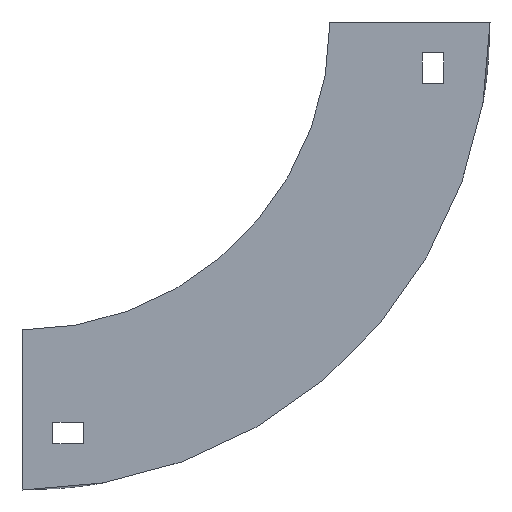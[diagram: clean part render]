
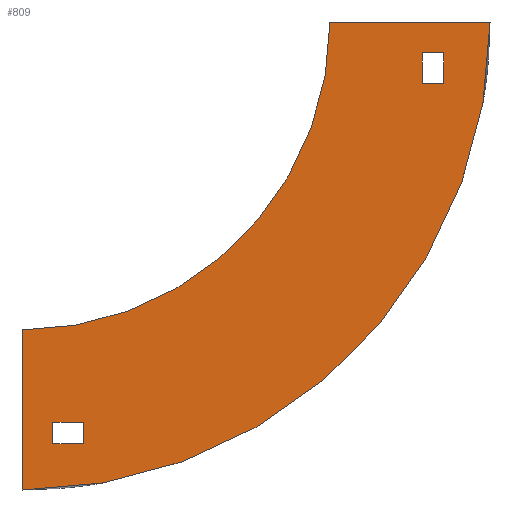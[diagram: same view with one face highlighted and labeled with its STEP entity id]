
A CAD part, left-side view. The second image highlights one B-rep face of the part: STEP entity #809.
In plain terms, the highlighted planar face has unit normal (-1, 0, 0).
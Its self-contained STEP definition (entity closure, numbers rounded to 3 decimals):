
#3 = CARTESIAN_POINT ( 'NONE',  ( -252., -52., 0. ) ) ;
#8 = VERTEX_POINT ( 'NONE', #1004 ) ;
#9 = VECTOR ( 'NONE', #44, 1000. ) ;
#12 = LINE ( 'NONE', #204, #700 ) ;
#22 = EDGE_CURVE ( 'NONE', #8, #177, #205, .T. ) ;
#24 = DIRECTION ( 'NONE',  ( 0., 0., -1. ) ) ;
#44 = DIRECTION ( 'NONE',  ( 0., 0., -1. ) ) ;
#50 = LINE ( 'NONE', #1103, #583 ) ;
#51 = ORIENTED_EDGE ( 'NONE', *, *, #223, .F. ) ;
#56 = DIRECTION ( 'NONE',  ( 0., 1., 0. ) ) ;
#63 = LINE ( 'NONE', #257, #442 ) ;
#64 = AXIS2_PLACEMENT_3D ( 'NONE', #1090, #190, #24 ) ;
#70 = EDGE_CURVE ( 'NONE', #177, #1034, #389, .T. ) ;
#77 = DIRECTION ( 'NONE',  ( -1., 0., 0. ) ) ;
#91 = FACE_BOUND ( 'NONE', #966, .T. ) ;
#92 = CARTESIAN_POINT ( 'NONE',  ( -252., 100., -100. ) ) ;
#101 = DIRECTION ( 'NONE',  ( 0., 0., -1. ) ) ;
#111 = EDGE_CURVE ( 'NONE', #268, #8, #50, .T. ) ;
#112 = LINE ( 'NONE', #466, #773 ) ;
#126 = VECTOR ( 'NONE', #897, 1000. ) ;
#148 = ORIENTED_EDGE ( 'NONE', *, *, #1095, .F. ) ;
#155 = VERTEX_POINT ( 'NONE', #603 ) ;
#169 = CARTESIAN_POINT ( 'NONE',  ( -252., 80., -137. ) ) ;
#177 = VERTEX_POINT ( 'NONE', #759 ) ;
#182 = FACE_BOUND ( 'NONE', #908, .T. ) ;
#190 = DIRECTION ( 'NONE',  ( 1., 0., 0. ) ) ;
#200 = VERTEX_POINT ( 'NONE', #169 ) ;
#204 = CARTESIAN_POINT ( 'NONE',  ( -252., -37., -10. ) ) ;
#205 = LINE ( 'NONE', #1099, #363 ) ;
#223 = EDGE_CURVE ( 'NONE', #991, #971, #703, .T. ) ;
#226 = ORIENTED_EDGE ( 'NONE', *, *, #833, .T. ) ;
#239 = CARTESIAN_POINT ( 'NONE',  ( -252., 90., -137. ) ) ;
#257 = CARTESIAN_POINT ( 'NONE',  ( -252., 80., -130. ) ) ;
#258 = VECTOR ( 'NONE', #858, 1000. ) ;
#260 = CARTESIAN_POINT ( 'NONE',  ( -252., 100., 0. ) ) ;
#261 = VERTEX_POINT ( 'NONE', #272 ) ;
#263 = EDGE_CURVE ( 'NONE', #281, #991, #695, .T. ) ;
#268 = VERTEX_POINT ( 'NONE', #1059 ) ;
#272 = CARTESIAN_POINT ( 'NONE',  ( -252., 80., -130. ) ) ;
#281 = VERTEX_POINT ( 'NONE', #724 ) ;
#303 = CARTESIAN_POINT ( 'NONE',  ( -252., 100., -152. ) ) ;
#336 = ORIENTED_EDGE ( 'NONE', *, *, #22, .T. ) ;
#339 = LINE ( 'NONE', #239, #258 ) ;
#348 = DIRECTION ( 'NONE',  ( 0., 0., 1. ) ) ;
#354 = DIRECTION ( 'NONE',  ( 0., 0., -1. ) ) ;
#363 = VECTOR ( 'NONE', #488, 1000. ) ;
#376 = DIRECTION ( 'NONE',  ( 0., -1., 0. ) ) ;
#389 = LINE ( 'NONE', #394, #440 ) ;
#394 = CARTESIAN_POINT ( 'NONE',  ( -252., -30., -10. ) ) ;
#424 = ORIENTED_EDGE ( 'NONE', *, *, #111, .T. ) ;
#431 = ORIENTED_EDGE ( 'NONE', *, *, #70, .T. ) ;
#440 = VECTOR ( 'NONE', #376, 1000. ) ;
#442 = VECTOR ( 'NONE', #348, 1000. ) ;
#466 = CARTESIAN_POINT ( 'NONE',  ( -252., 90., -130. ) ) ;
#484 = ORIENTED_EDGE ( 'NONE', *, *, #263, .F. ) ;
#488 = DIRECTION ( 'NONE',  ( 0., 0., 1. ) ) ;
#517 = CIRCLE ( 'NONE', #662, 100. ) ;
#540 = VERTEX_POINT ( 'NONE', #1077 ) ;
#550 = VERTEX_POINT ( 'NONE', #1146 ) ;
#553 = VECTOR ( 'NONE', #800, 1000. ) ;
#561 = ORIENTED_EDGE ( 'NONE', *, *, #1148, .F. ) ;
#582 = LINE ( 'NONE', #758, #9 ) ;
#583 = VECTOR ( 'NONE', #56, 1000. ) ;
#603 = CARTESIAN_POINT ( 'NONE',  ( -252., 90., -137. ) ) ;
#605 = AXIS2_PLACEMENT_3D ( 'NONE', #260, #1144, #354 ) ;
#632 = ORIENTED_EDGE ( 'NONE', *, *, #880, .F. ) ;
#635 = PLANE ( 'NONE',  #64 ) ;
#662 = AXIS2_PLACEMENT_3D ( 'NONE', #679, #77, #1029 ) ;
#665 = ORIENTED_EDGE ( 'NONE', *, *, #932, .F. ) ;
#679 = CARTESIAN_POINT ( 'NONE',  ( -252., 100., 0. ) ) ;
#695 = CIRCLE ( 'NONE', #605, 152. ) ;
#700 = VECTOR ( 'NONE', #101, 1000. ) ;
#703 = LINE ( 'NONE', #92, #553 ) ;
#705 = ORIENTED_EDGE ( 'NONE', *, *, #793, .F. ) ;
#709 = EDGE_LOOP ( 'NONE', ( #561, #51, #484, #705 ) ) ;
#712 = LINE ( 'NONE', #3, #126 ) ;
#724 = CARTESIAN_POINT ( 'NONE',  ( -252., -52., 0. ) ) ;
#758 = CARTESIAN_POINT ( 'NONE',  ( -252., 90., -130. ) ) ;
#759 = CARTESIAN_POINT ( 'NONE',  ( -252., -30., -10. ) ) ;
#773 = VECTOR ( 'NONE', #824, 1000. ) ;
#793 = EDGE_CURVE ( 'NONE', #540, #281, #712, .T. ) ;
#800 = DIRECTION ( 'NONE',  ( 0., 0., 1. ) ) ;
#809 = ADVANCED_FACE ( 'NONE', ( #918, #182, #91 ), #635, .F. ) ;
#824 = DIRECTION ( 'NONE',  ( 0., 1., 0. ) ) ;
#833 = EDGE_CURVE ( 'NONE', #1034, #268, #12, .T. ) ;
#838 = CARTESIAN_POINT ( 'NONE',  ( -252., 100., -100. ) ) ;
#858 = DIRECTION ( 'NONE',  ( 0., -1., 0. ) ) ;
#880 = EDGE_CURVE ( 'NONE', #261, #550, #112, .T. ) ;
#897 = DIRECTION ( 'NONE',  ( 0., -1., 0. ) ) ;
#908 = EDGE_LOOP ( 'NONE', ( #336, #431, #226, #424 ) ) ;
#918 = FACE_OUTER_BOUND ( 'NONE', #709, .T. ) ;
#932 = EDGE_CURVE ( 'NONE', #550, #155, #582, .T. ) ;
#948 = ORIENTED_EDGE ( 'NONE', *, *, #1080, .F. ) ;
#966 = EDGE_LOOP ( 'NONE', ( #665, #632, #148, #948 ) ) ;
#971 = VERTEX_POINT ( 'NONE', #838 ) ;
#991 = VERTEX_POINT ( 'NONE', #303 ) ;
#1004 = CARTESIAN_POINT ( 'NONE',  ( -252., -30., -20. ) ) ;
#1017 = CARTESIAN_POINT ( 'NONE',  ( -252., -37., -10. ) ) ;
#1029 = DIRECTION ( 'NONE',  ( 0., 0., -1. ) ) ;
#1034 = VERTEX_POINT ( 'NONE', #1017 ) ;
#1059 = CARTESIAN_POINT ( 'NONE',  ( -252., -37., -20. ) ) ;
#1077 = CARTESIAN_POINT ( 'NONE',  ( -252., 0., 0. ) ) ;
#1080 = EDGE_CURVE ( 'NONE', #155, #200, #339, .T. ) ;
#1090 = CARTESIAN_POINT ( 'NONE',  ( -252., 100., 0. ) ) ;
#1095 = EDGE_CURVE ( 'NONE', #200, #261, #63, .T. ) ;
#1099 = CARTESIAN_POINT ( 'NONE',  ( -252., -30., -10. ) ) ;
#1103 = CARTESIAN_POINT ( 'NONE',  ( -252., -30., -20. ) ) ;
#1144 = DIRECTION ( 'NONE',  ( 1., 0., 0. ) ) ;
#1146 = CARTESIAN_POINT ( 'NONE',  ( -252., 90., -130. ) ) ;
#1148 = EDGE_CURVE ( 'NONE', #971, #540, #517, .T. ) ;
